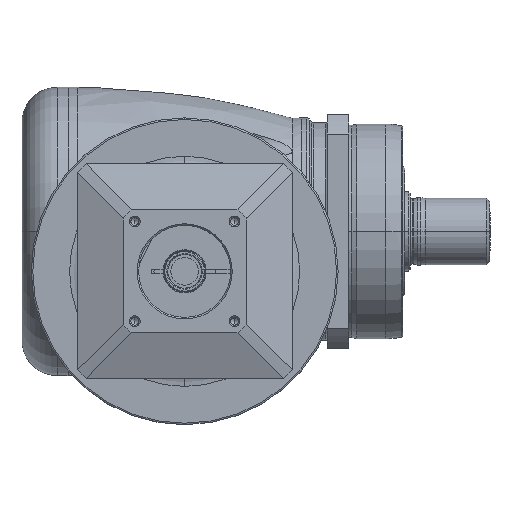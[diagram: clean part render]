
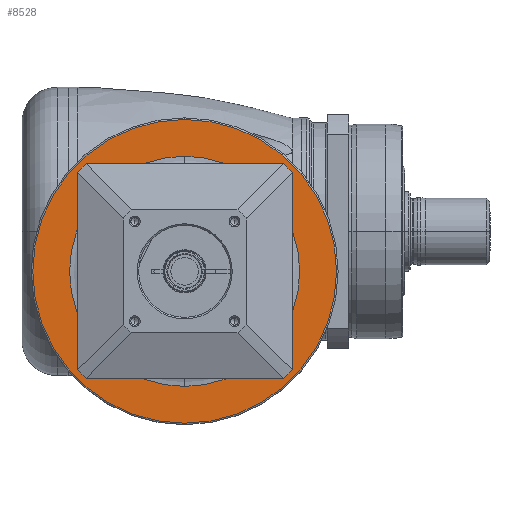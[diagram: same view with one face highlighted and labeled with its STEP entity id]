
A CAD part, front view. The second image highlights one B-rep face of the part: STEP entity #8528.
In plain terms, the highlighted planar face has unit normal (0, -1, 0) as drawn and (1, 0, 0) by its records, which use the part's own axes.
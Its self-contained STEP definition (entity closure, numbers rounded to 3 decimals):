
#7559=CARTESIAN_POINT('',(-10.,0.,0.));
#7560=DIRECTION('',(-1.,0.,0.));
#7561=DIRECTION('',(0.,-1.,0.));
#7562=AXIS2_PLACEMENT_3D('',#7559,#7560,#7561);
#7564=CARTESIAN_POINT('',(-10.,0.,0.));
#7565=DIRECTION('',(-1.,0.,0.));
#7566=DIRECTION('',(0.,1.,0.));
#7567=AXIS2_PLACEMENT_3D('',#7564,#7565,#7566);
#7569=CARTESIAN_POINT('',(-10.,0.,0.));
#7570=DIRECTION('',(-1.,0.,0.));
#7571=DIRECTION('',(0.,-1.,0.));
#7572=AXIS2_PLACEMENT_3D('',#7569,#7570,#7571);
#7574=CARTESIAN_POINT('',(-10.,0.,0.));
#7575=DIRECTION('',(-1.,0.,0.));
#7576=DIRECTION('',(0.,1.,0.));
#7577=AXIS2_PLACEMENT_3D('',#7574,#7575,#7576);
#7821=CARTESIAN_POINT('',(-10.,-49.5,0.));
#7822=CARTESIAN_POINT('',(-10.,49.5,0.));
#7823=VERTEX_POINT('',#7821);
#7824=VERTEX_POINT('',#7822);
#7879=CARTESIAN_POINT('',(-10.,-37.5,0.));
#7880=CARTESIAN_POINT('',(-10.,37.5,0.));
#7881=VERTEX_POINT('',#7879);
#7882=VERTEX_POINT('',#7880);
#8513=CARTESIAN_POINT('',(-10.,0.,0.));
#8514=DIRECTION('',(1.,0.,0.));
#8515=DIRECTION('',(0.,-1.,0.));
#8516=AXIS2_PLACEMENT_3D('',#8513,#8514,#8515);
#8517=PLANE('',#8516);
#8518=ORIENTED_EDGE('',*,*,#8469,.T.);
#8519=ORIENTED_EDGE('',*,*,#8454,.T.);
#8520=EDGE_LOOP('',(#8518,#8519));
#8521=FACE_OUTER_BOUND('',#8520,.F.);
#8523=ORIENTED_EDGE('',*,*,#8522,.F.);
#8525=ORIENTED_EDGE('',*,*,#8524,.F.);
#8526=EDGE_LOOP('',(#8523,#8525));
#8527=FACE_BOUND('',#8526,.F.);
#8528=ADVANCED_FACE('',(#8521,#8527),#8517,.T.);
#7563=CIRCLE('',#7562,37.5);
#7568=CIRCLE('',#7567,37.5);
#7573=CIRCLE('',#7572,49.5);
#7578=CIRCLE('',#7577,49.5);
#8454=EDGE_CURVE('',#7824,#7823,#7578,.T.);
#8469=EDGE_CURVE('',#7823,#7824,#7573,.T.);
#8522=EDGE_CURVE('',#7881,#7882,#7563,.T.);
#8524=EDGE_CURVE('',#7882,#7881,#7568,.T.);
